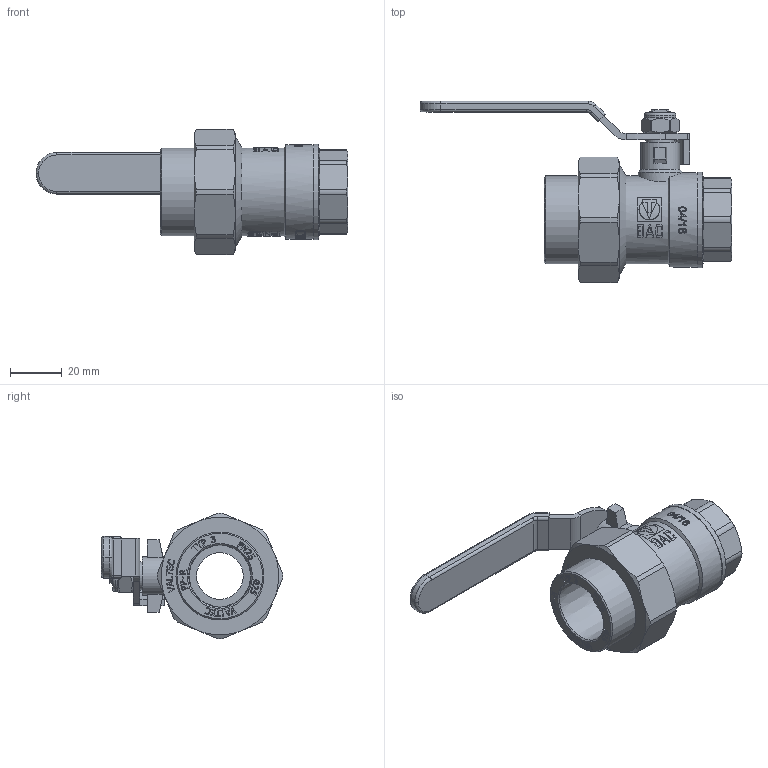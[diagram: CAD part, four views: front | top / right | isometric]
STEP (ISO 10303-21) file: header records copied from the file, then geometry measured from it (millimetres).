
FILE_DESCRIPTION(/* description */ (''),/* implementation_level */ '2;1');
FILE_NAME(/* name */ 'E:\Артём\00000\Работа удаленка\VTp.742\VTp.742.0.02505.stp',/* time_stamp */ '2020-04-09T12:10:16+03:00',/* author */ ('BeN_GaN'),/* organization */ (''),/* preprocessor_version */ 'ST-DEVELOPER v18',/* originating_system */ 'Autodesk Inventor 2020',/* authorisation */ '');
FILE_SCHEMA (('AUTOMOTIVE_DESIGN { 1 0 10303 214 3 1 1 }'));
Length unit declared in the file: millimetre
Products named in the file (1): VTp.742.0.02505
Bounding box: 120.55 x 70.06 x 48.5 mm (x, y, z)
Volume: 60044.5 mm3; surface area: 28764.9 mm2
Topology: 1 solids, 8 shells, 1233 faces, 3331 edges, 2229 vertices
Faces by surface type: plane 632, bspline 395, cylinder 135, cone 48, torus 21, sphere 2
Full cylindrical faces by diameter (mm): 4 x1, 8 x2, 11 x3, 12 x1, 15 x1, 17 x1, 18 x1, 19 x3, 19.1 x2, 23 x1, 24.1 x1, 26 x2, 34 x2, 36.5 x1, 37 x1, 38.5 x1, 39 x1, 42 x1
Entity records: 45141 total; most frequent: CARTESIAN_POINT 16600, ORIENTED_EDGE 6658, DIRECTION 4572, EDGE_CURVE 3329, VERTEX_POINT 2229, LINE 1914, VECTOR 1914, EDGE_LOOP 1364
